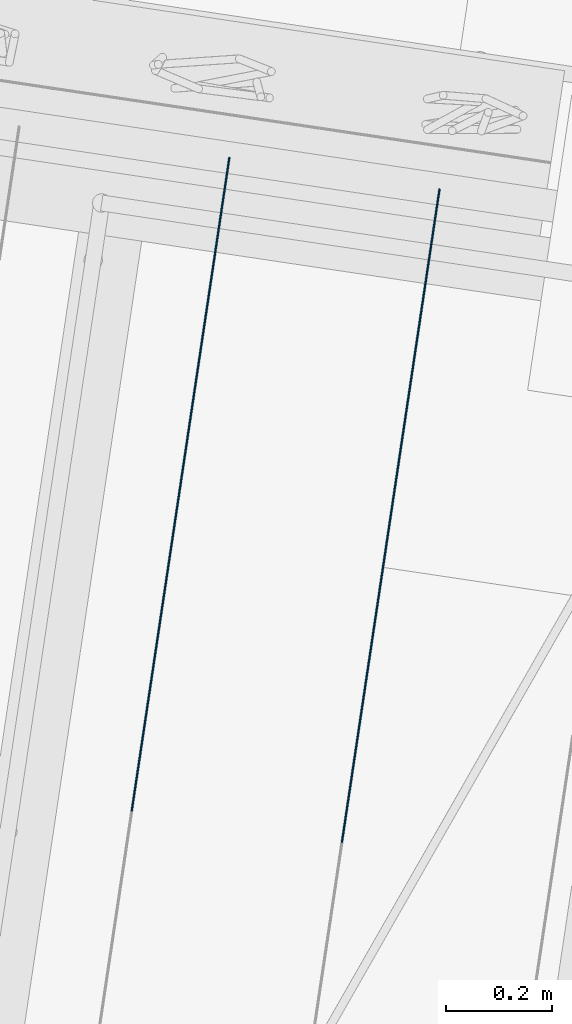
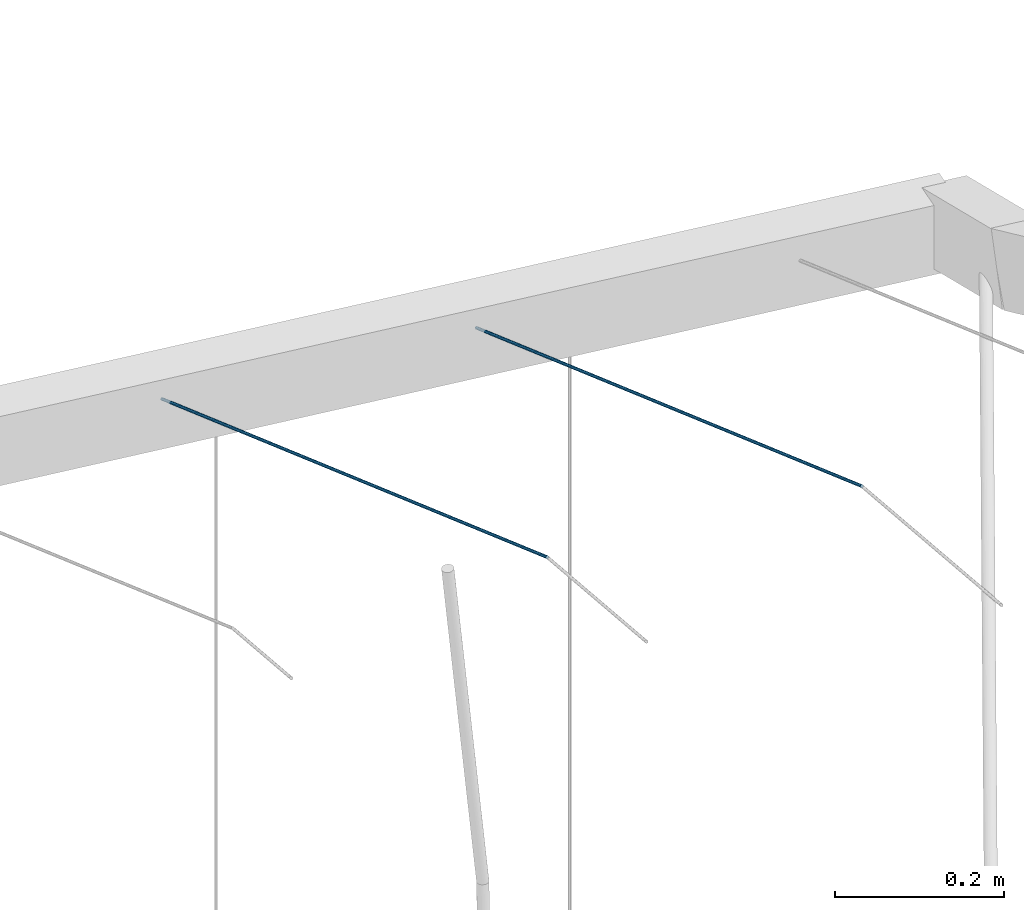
# One storey, part 44 of 143: 2 members, 1 element without a shape of its own.
"""IFC4 building model written with IfcOpenShell, lengths in metres."""

from ifc_helpers import new_model, si_unit, direction, frame, origin_with_axes, place, context, subcontext, project, spatial, circle, extrude, material, material_profile, profile_set, profile_usage, type_object, element, aggregate, save


model = new_model("IFC4")

# Units and contexts
model_context = context("Model", 3, precision=1e-05, world=origin_with_axes(), true_north=direction((0.0, 1.0)))
body_context = subcontext(model_context, "Body", "Model", "MODEL_VIEW")
ifc_project = project(units=[si_unit("VOLUMEUNIT", "CUBIC_METRE"), si_unit("LENGTHUNIT", "METRE"), si_unit("AREAUNIT", "SQUARE_METRE")], contexts=[model_context])

# Site, building, storey
site_placement = place(None, origin_with_axes())
site = spatial("IfcSite", under=ifc_project, at=site_placement, Name="Lares · Rua das Mercês · artigo 4771")
building_placement = place(site_placement, frame((15.0, 9.7, 15.8), z_axis=(0.0, 0.0, 1.0), x_axis=(0.989015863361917, -0.147809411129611, 0.0)))
building = spatial("IfcBuilding", under=site, at=building_placement, Name="Casa Sobreposta")
storey_placement = place(building_placement, origin_with_axes())
storey = spatial("IfcBuildingStorey", under=building, at=storey_placement, Name="00 · Habitação e estacionamento", Elevation=15.8)

# Assembly, members
assembly_placement = place(storey_placement, origin_with_axes())
assembly = element("IfcElementAssembly", 1, at=assembly_placement, inside=storey, Name="Pérgola · prolongamento da estufa 6 m", ObjectType="PERGOLA_GREENHOUSE_EXTENSION", PredefinedType="USERDEFINED")
ifc_material = material(Name="Aço galvanizado / Stahl verzinkt", Category="steel")
ifc_material_profile = material_profile(ifc_material, circle(Radius=0.002))
ifc_profile_set = profile_set([ifc_material_profile], Name="D0.004")
ifc_profile_usage_1 = profile_usage(ifc_profile_set)
member_type = type_object("IfcMemberType", Name="D0.004 / galvanized", PredefinedType="NOTDEFINED", material=ifc_profile_set)
member_1_placement = place(assembly_placement, frame((-0.999999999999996, 5.15650506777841, 6.8157371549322), z_axis=(0.0, 0.905864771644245, -0.423567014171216), x_axis=(1.0, 0.0, 0.0)))
member_1 = element("IfcMember", 2, at=member_1_placement, type_object=member_type, material=ifc_profile_usage_1, Name="Pérgola · fio para trepadeiras", context=body_context, shape_type="SweptSolid", body=[
    extrude(circle(Radius=0.002), origin_with_axes(), (0.0, 0.0, 1.0), 1.3727158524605),
])
ifc_profile_usage_2 = profile_usage(ifc_profile_set)
member_2_placement = place(assembly_placement, frame((-0.599999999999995, 5.15650506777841, 6.8157371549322), z_axis=(0.0, 0.905864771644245, -0.423567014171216), x_axis=(1.0, 0.0, 0.0)))
member_2 = element("IfcMember", 3, at=member_2_placement, type_object=member_type, material=ifc_profile_usage_2, Name="Pérgola · fio para trepadeiras", context=body_context, shape_type="SweptSolid", body=[
    extrude(circle(Radius=0.002), origin_with_axes(), (0.0, 0.0, 1.0), 1.3727158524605),
])
aggregate(assembly, [member_1, member_2])

save(model, "model.ifc")
